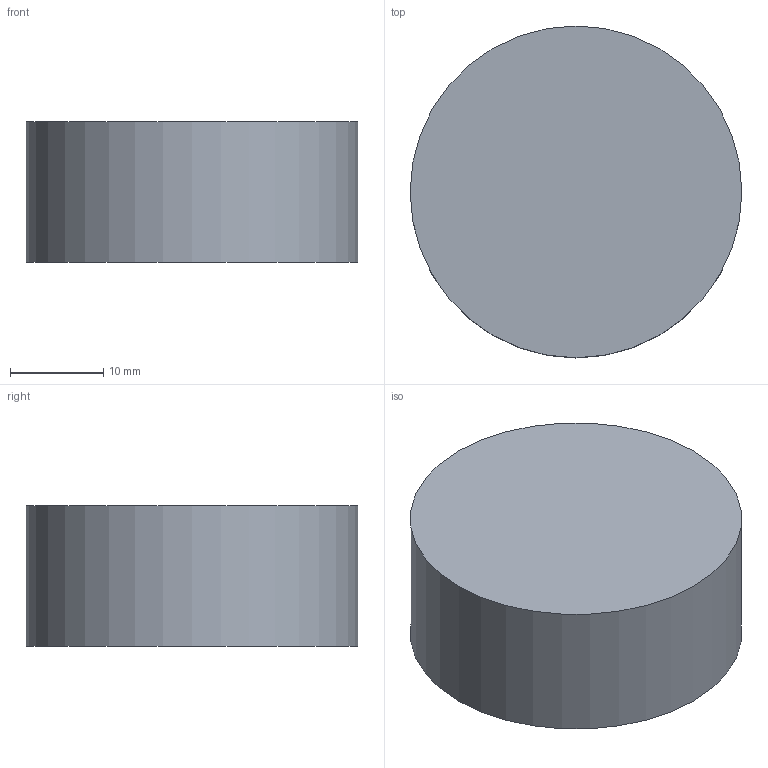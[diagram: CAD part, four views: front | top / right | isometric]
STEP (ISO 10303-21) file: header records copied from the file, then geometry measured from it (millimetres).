
FILE_DESCRIPTION(('Open CASCADE Model'),'2;1');
FILE_NAME('Open CASCADE Shape Model','2026-10-04T01:02:36',('Author'),( 'Open CASCADE'),'Open CASCADE STEP processor 8.0','Open CASCADE 8.0' ,'Unknown');
FILE_SCHEMA(('AUTOMOTIVE_DESIGN { 1 0 10303 214 1 1 1 1 }'));
Length unit declared in the file: millimetre
Products named in the file (1): Open CASCADE STEP translator 8.0 410
Bounding box: 35.6 x 35.6 x 15.07 mm (x, y, z)
Volume: 15000 mm3; surface area: 3676.2 mm2
Topology: 1 solids, 1 shells, 3 faces, 3 edges, 2 vertices
Faces by surface type: plane 2, cylinder 1
Full cylindrical faces by diameter (mm): 35.6 x1
Entity records: 108 total; most frequent: DIRECTION 19, CARTESIAN_POINT 15, AXIS2_PLACEMENT_3D 6, ORIENTED_EDGE 6, PCURVE 6, DEFINITIONAL_REPRESENTATION 6, LINE 5, VECTOR 5
